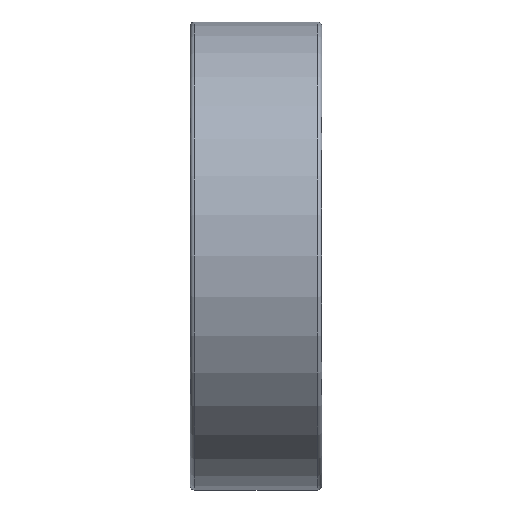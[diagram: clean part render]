
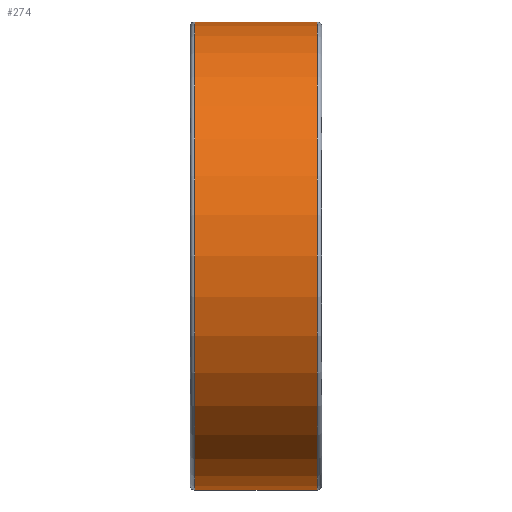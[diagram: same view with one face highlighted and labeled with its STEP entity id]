
A CAD part, front view. The second image highlights one B-rep face of the part: STEP entity #274.
In plain terms, the highlighted cylindrical face has radius 16 mm (diameter 32 mm), a full revolution.
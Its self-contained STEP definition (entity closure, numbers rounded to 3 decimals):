
#220=CYLINDRICAL_SURFACE('',#891,16.);
#274=ADVANCED_FACE('',(#405,#406),#220,.T.);
#405=FACE_BOUND('',#523,.T.);
#406=FACE_BOUND('',#524,.T.);
#523=EDGE_LOOP('',(#639));
#524=EDGE_LOOP('',(#640));
#639=ORIENTED_EDGE('',*,*,#773,.T.);
#640=ORIENTED_EDGE('',*,*,#772,.F.);
#712=VERTEX_POINT('',#2735);
#713=VERTEX_POINT('',#2738);
#772=EDGE_CURVE('',#712,#712,#804,.T.);
#773=EDGE_CURVE('',#713,#713,#805,.T.);
#804=CIRCLE('',#888,16.);
#805=CIRCLE('',#890,16.);
#888=AXIS2_PLACEMENT_3D('',#2734,#1059,#1060);
#890=AXIS2_PLACEMENT_3D('',#2737,#1063,#1064);
#891=AXIS2_PLACEMENT_3D('',#2739,#1065,#1066);
#1059=DIRECTION('',(-1.,0.,0.));
#1060=DIRECTION('',(0.,0.,1.));
#1063=DIRECTION('',(-1.,0.,0.));
#1064=DIRECTION('',(0.,0.,1.));
#1065=DIRECTION('',(-1.,0.,0.));
#1066=DIRECTION('',(0.,0.,1.));
#2734=CARTESIAN_POINT('',(0.3,0.,0.));
#2735=CARTESIAN_POINT('',(0.3,0.,16.));
#2737=CARTESIAN_POINT('',(8.7,0.,0.));
#2738=CARTESIAN_POINT('',(8.7,0.,16.));
#2739=CARTESIAN_POINT('',(9.,0.,0.));
